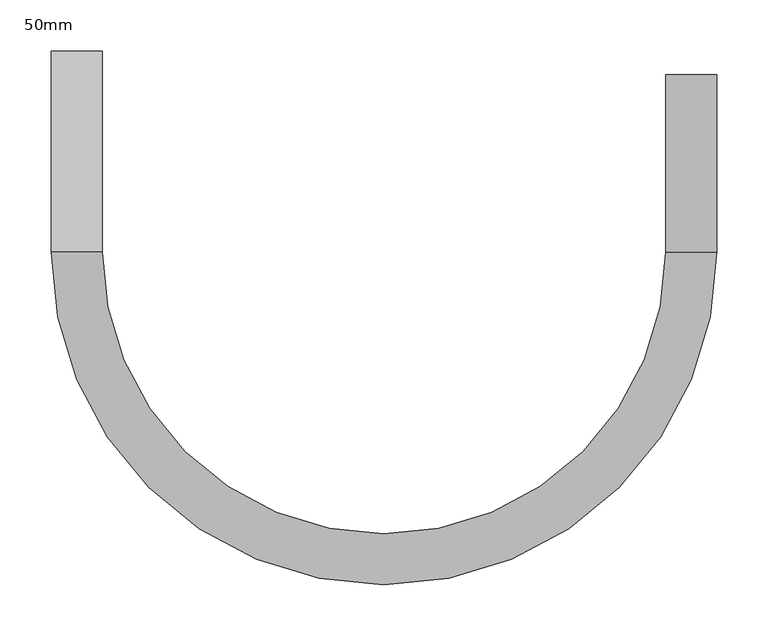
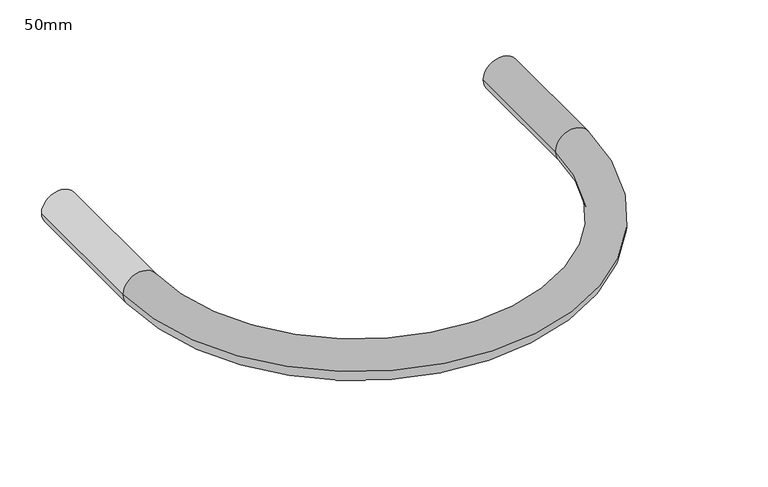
"""IFC4 building model written with IfcOpenShell, lengths in millimetres: pipe fitting geometry, PipeAccessory_HTA_CPVC_ExpansionJoints : 50mm."""

from ifc_helpers import new_model, si_unit, point, frame, origin, origin_with_axes, place, context, project, spatial, circle_curve, ellipse_curve, trimmed, source, transform, mapped, element, save
from ifc_brep_helpers import plane_surface, cylinder_surface, revolved_surface, advanced_brep


def pipe_fitting_50mm_91f10f9e(model_context):
    return source(origin(), model_context, "Body", "AdvancedBrep", [
        advanced_brep(
        [(275.0, 173.5, 0.0), (325.0, 173.5, 0.0), (275.0, 0.0, 0.0), (325.0, 0.0, 0.0), (-325.0, 0.0, 0.0), (-275.0, 0.0, 0.0), (-275.0, 196.5, 0.0), (-325.0, 196.5, 0.0)],
        [
            (0, 1, circle_curve(frame((300.0, 173.5, 0.0), z_axis=(0.0, 1.0, 0.0), x_axis=(1.0, 0.0, 0.0)), 25.0)),
            (1, 0, circle_curve(frame((300.0, 173.5, 0.0), z_axis=(0.0, 1.0, 0.0), x_axis=(1.0, 0.0, 0.0)), 25.0)),
            (0, 2),
            (2, 3, circle_curve(frame((300.0, 0.0, 0.0), z_axis=(0.0, 1.0, 0.0), x_axis=(1.0, 0.0, 0.0)), 25.0)),
            (3, 1),
            (3, 2, circle_curve(frame((300.0, 0.0, 0.0), z_axis=(0.0, 1.0, 0.0), x_axis=(1.0, 0.0, 0.0)), 25.0)),
            (4, 3, circle_curve(origin_with_axes(), 325.0)),
            (2, 5, circle_curve(frame((0.0, 0.0, 0.0), z_axis=(0.0, 0.0, -1.0), x_axis=(1.0, 0.0, 0.0)), 275.0)),
            (5, 4, circle_curve(frame((-300.0, 0.0, 0.0), z_axis=(0.0, -1.0, 0.0), x_axis=(-1.0, 0.0, 0.0)), 25.0)),
            (4, 5, circle_curve(frame((-300.0, 0.0, 0.0), z_axis=(0.0, -1.0, 0.0), x_axis=(-1.0, 0.0, 0.0)), 25.0)),
            (6, 7, circle_curve(frame((-300.0, 196.5, 0.0), z_axis=(0.0, 1.0, 0.0), x_axis=(-1.0, 0.0, 0.0)), 25.0)),
            (7, 6, circle_curve(frame((-300.0, 196.5, 0.0), z_axis=(0.0, 1.0, 0.0), x_axis=(-1.0, 0.0, 0.0)), 25.0)),
            (5, 6),
            (7, 4),
        ],
        [
            plane_surface(frame((300.0, 173.5, 0.0), z_axis=(0.0, 1.0, 0.0), x_axis=(0.0, 0.0, 1.0))),
            cylinder_surface(frame((300.0, 173.5, 0.0), z_axis=(0.0, 1.0, 0.0), x_axis=(1.0, 0.0, 0.0)), 25.0),
            revolved_surface(trimmed(ellipse_curve(frame((300.0, 0.0, 0.0), z_axis=(0.0, 1.0, 0.0), x_axis=(1.0, 0.0, 0.0)), 25.0, 25.0), [point((275.0, 0.0, 0.0))], [point((325.0, 0.0, 0.0))], True, "CARTESIAN"), (0.0, 0.0, 0.0), (0.0, 0.0, -1.0)),
            revolved_surface(trimmed(ellipse_curve(frame((300.0, 0.0, 0.0), z_axis=(0.0, 1.0, 0.0), x_axis=(1.0, 0.0, 0.0)), 25.0, 25.0), [point((325.0, 0.0, 0.0))], [point((275.0, 0.0, 0.0))], True, "CARTESIAN"), (0.0, 0.0, 0.0), (0.0, 0.0, -1.0)),
            plane_surface(frame((-300.0, 196.5, 0.0), z_axis=(0.0, 1.0, 0.0), x_axis=(0.0, 0.0, 1.0))),
            cylinder_surface(frame((-300.0, 0.0, 0.0), z_axis=(0.0, -1.0, 0.0), x_axis=(-1.0, 0.0, 0.0)), 25.0),
        ],
        [
            (0, [[1, 2]]),
            (1, [[-1, 3, 4, 5]]),
            (1, [[-2, -5, 6, -3]]),
            (2, [[7, -4, 8, 9]]),
            (3, [[-8, -6, -7, 10]]),
            (4, [[11, 12]]),
            (5, [[-9, 13, -12, 14]]),
            (5, [[-10, -14, -11, -13]]),
        ],
    ),
    ])


if __name__ == "__main__":
    model = new_model("IFC4")
    model_context = context("Model", 3, world=origin())
    ifc_project = project(units=[si_unit("LENGTHUNIT", "METRE", prefix="MILLI")], contexts=[model_context])
    site = spatial("IfcSite", under=ifc_project)
    building = spatial("IfcBuilding", under=site)
    placement = place(None, origin())
    pipe_fitting_50mm_shape = pipe_fitting_50mm_91f10f9e(model_context)
    element("IfcPipeFitting", 1, ObjectType="PipeAccessory_HTA_CPVC_ExpansionJoints : 50mm", at=placement, inside=building, context=model_context, shape_type="MappedRepresentation", body=[
        mapped(pipe_fitting_50mm_shape, transform((0.0, 0.0, 0.0), x_axis=(1.0, 0.0, 0.0), y_axis=(0.0, 1.0, 0.0), z_axis=(0.0, 0.0, 1.0))),
    ])
    save(model, "model.ifc")
